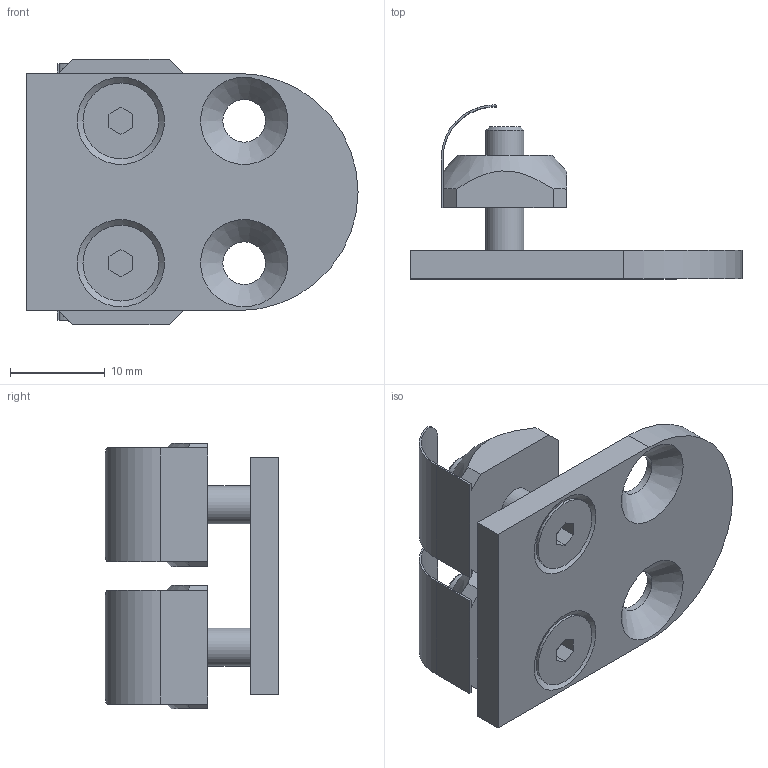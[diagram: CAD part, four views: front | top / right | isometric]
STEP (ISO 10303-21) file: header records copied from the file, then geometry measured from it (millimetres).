
FILE_DESCRIPTION((''),'2;1');
FILE_NAME('C:\Andys Backup Data\WEBSITE\DREAMWEAVER\MiniTec\Products\Handles_Latches_Catches_Bumpers\CAD\Step\21.2308 Magnetic Plate S.stp','2014-05-23T16:22:11',('Admin'),(''),'Autodesk Inventor 2012','Autodesk Inventor 2012','');
FILE_SCHEMA(('AUTOMOTIVE_DESIGN { 1 0 10303 214 1 1 1 1 }'));
Length unit declared in the file: inch
Products named in the file (4): 21.2308 Magnetic Plate S; 21.2308_Magnetic_Plate_S; 21.1501 M4x16 C'SUNK; 21.1310_2 M4 SQUARE NUT POS FXG
Assembly tree (3 placements, depth 2):
  21.2308 Magnetic Plate S
    21.2308_Magnetic_Plate_S
    21.1310_2 M4 SQUARE NUT POS FXG  x2
  21.1501 M4x16 C'SUNK
Bounding box: 35 x 18.3 x 28 mm (x, y, z)
Volume: 3995 mm3; surface area: 4235 mm2
Topology: 5 solids, 5 shells, 82 faces, 202 edges, 132 vertices
Faces by surface type: plane 51, cylinder 19, cone 10, torus 2
Full cylindrical faces by diameter (mm): 4 x4, 4.5 x4, 8 x2
Entity records: 1475 total; most frequent: CARTESIAN_POINT 281, DIRECTION 228, ORIENTED_EDGE 198, EDGE_CURVE 99, AXIS2_PLACEMENT_3D 84, EDGE_LOOP 74, VERTEX_POINT 73, VECTOR 60
